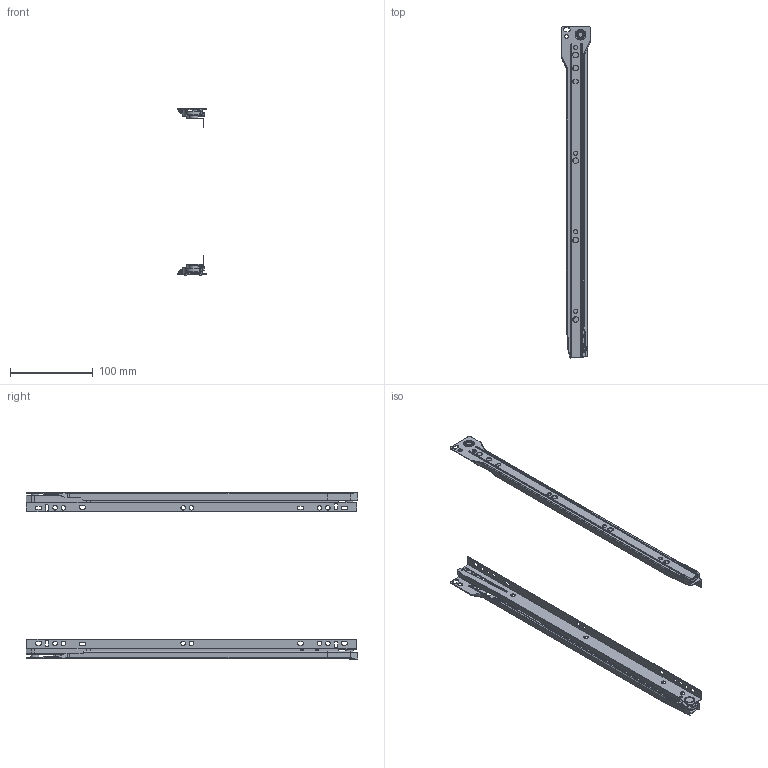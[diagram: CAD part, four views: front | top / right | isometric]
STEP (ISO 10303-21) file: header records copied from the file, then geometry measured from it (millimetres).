
FILE_DESCRIPTION(/* description */ (''),/* implementation_level */ '2;1');
FILE_NAME(/* name */ 'C:\Users\dmitruk\Documents\WORK\НАПРАВЛЯЮЩИЕ\Роликовые\Направляющие роликовая AKS 0.9 mm\Направляющие роликовая AKS 0.9 mm-400.stp',/* time_stamp */ '2022-07-29T15:04:50+03:00',/* author */ ('dmitruk'),/* organization */ (''),/* preprocessor_version */ 'ST-DEVELOPER v16.5',/* originating_system */ 'Autodesk Inventor 2017',/* authorisation */ '');
FILE_SCHEMA (('AUTOMOTIVE_DESIGN { 1 0 10303 214 3 1 1 }'));
Length unit declared in the file: millimetre
Products named in the file (5): Направляющие 
роликовая AKS 0.9 mm; rol_cr_09; rol_cl_09-01; rol_dr_09; rol_dl_09
Assembly tree (4 placements, depth 2):
  Направляющие 
роликовая AKS 0.9 mm
    rol_cr_09
    rol_cl_09-01
    rol_dr_09
    rol_dl_09
Bounding box: 35 x 401.38 x 201 mm (x, y, z)
Volume: 61534.9 mm3; surface area: 122947 mm2
Topology: 4 solids, 6 shells, 542 faces, 1403 edges, 880 vertices
Faces by surface type: plane 262, cylinder 205, cone 28, bspline 23, torus 22, sphere 2
Full cylindrical faces by diameter (mm): 5 x10, 5.5 x20, 6 x2, 6.1 x4, 6.8 x5, 7.8 x1, 9 x4, 10 x4, 14 x4, 19 x4
Entity records: 17008 total; most frequent: CARTESIAN_POINT 3219, DIRECTION 2843, ORIENTED_EDGE 2616, EDGE_CURVE 1302, AXIS2_PLACEMENT_3D 1027, VERTEX_POINT 880, LINE 789, VECTOR 789
